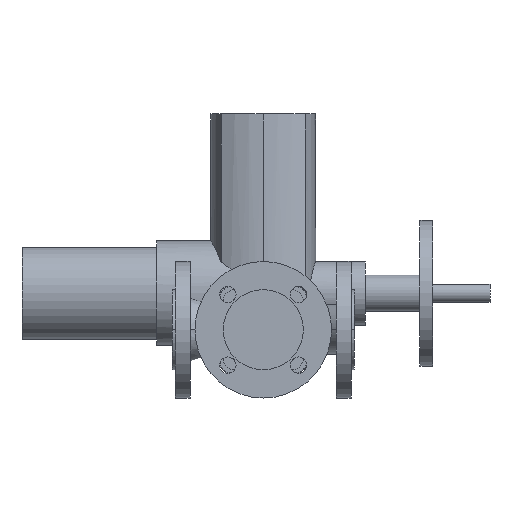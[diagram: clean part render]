
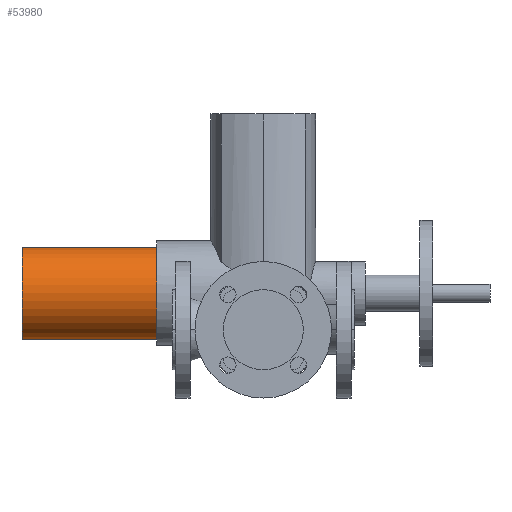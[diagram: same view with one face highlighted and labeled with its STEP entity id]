
A CAD part, front view. The second image highlights one B-rep face of the part: STEP entity #53980.
In plain terms, the highlighted cylindrical face has radius 50.5 mm (diameter 101 mm), a partial arc.
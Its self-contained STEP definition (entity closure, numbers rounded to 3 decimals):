
#53570=CARTESIAN_POINT('',(-91.,613.5,40.));
#53580=DIRECTION('',(1.,0.,0.));
#53590=DIRECTION('',(0.,0.,-1.));
#53600=AXIS2_PLACEMENT_3D('',#53570,#53580,#53590);
#53610=CYLINDRICAL_SURFACE('',#53600,50.5);
#53620=CARTESIAN_POINT('',(-91.,613.5,90.5));
#53630=DIRECTION('',(1.,0.,0.));
#53640=VECTOR('',#53630,1.);
#53650=LINE('',#53620,#53640);
#53660=CARTESIAN_POINT('',(-165.,613.5,90.5));
#53670=VERTEX_POINT('',#53660);
#53680=CARTESIAN_POINT('',(-17.,613.5,90.5));
#53690=VERTEX_POINT('',#53680);
#53700=EDGE_CURVE('',#53670,#53690,#53650,.T.);
#53710=ORIENTED_EDGE('',*,*,#53700,.F.);
#53720=CARTESIAN_POINT('',(-17.,613.5,40.));
#53730=DIRECTION('',(-1.,0.,0.));
#53740=DIRECTION('',(0.,0.,-1.));
#53750=AXIS2_PLACEMENT_3D('',#53720,#53730,#53740);
#53760=CIRCLE('',#53750,50.5);
#53770=CARTESIAN_POINT('',(-17.,613.5,-10.5));
#53780=VERTEX_POINT('',#53770);
#53790=EDGE_CURVE('',#53780,#53690,#53760,.T.);
#53800=ORIENTED_EDGE('',*,*,#53790,.T.);
#53810=CARTESIAN_POINT('',(-91.,613.5,-10.5));
#53820=DIRECTION('',(1.,0.,0.));
#53830=VECTOR('',#53820,1.);
#53840=LINE('',#53810,#53830);
#53850=CARTESIAN_POINT('',(-165.,613.5,-10.5));
#53860=VERTEX_POINT('',#53850);
#53870=EDGE_CURVE('',#53860,#53780,#53840,.T.);
#53880=ORIENTED_EDGE('',*,*,#53870,.T.);
#53890=CARTESIAN_POINT('',(-165.,613.5,40.));
#53900=DIRECTION('',(-1.,0.,0.));
#53910=DIRECTION('',(0.,0.,-1.));
#53920=AXIS2_PLACEMENT_3D('',#53890,#53900,#53910);
#53930=CIRCLE('',#53920,50.5);
#53940=EDGE_CURVE('',#53860,#53670,#53930,.T.);
#53950=ORIENTED_EDGE('',*,*,#53940,.F.);
#53960=EDGE_LOOP('',(#53950,#53880,#53800,#53710));
#53970=FACE_OUTER_BOUND('',#53960,.T.);
#53980=ADVANCED_FACE('',(#53970),#53610,.T.);
